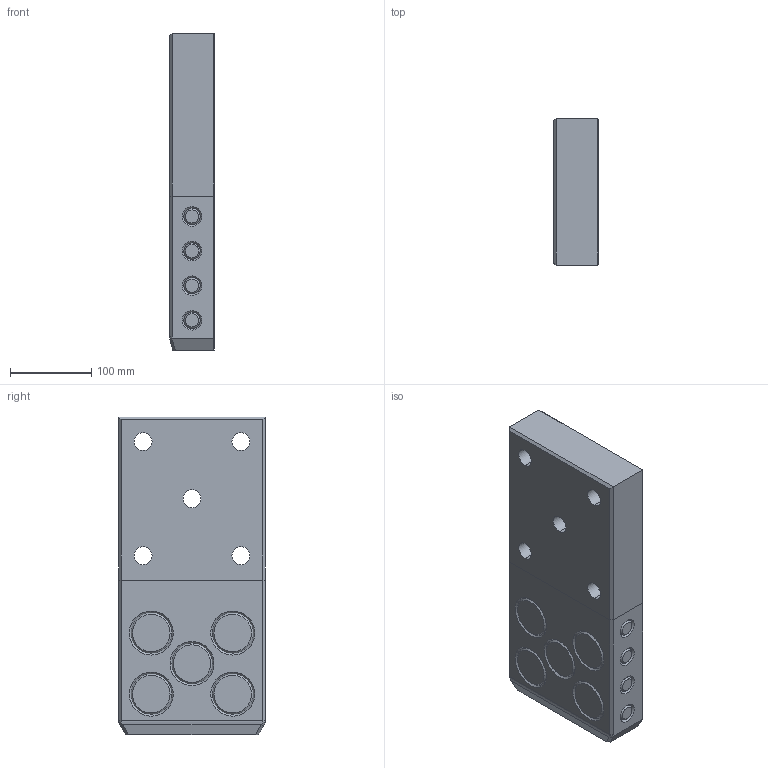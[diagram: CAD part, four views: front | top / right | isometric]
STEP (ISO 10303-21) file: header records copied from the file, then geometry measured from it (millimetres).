
FILE_DESCRIPTION((''),'2;1');
FILE_NAME('','2010-08-30T18:28:19+09:00',('misumi'),(''),'M/STEP i/f 1R2-14','CADmeister v5.1','');
FILE_SCHEMA(('AUTOMOTIVE_DESIGN'));
Length unit declared in the file: millimetre
Products named in the file (1): OG180-390
Bounding box: 55 x 180 x 390 mm (x, y, z)
Volume: 3730794.4 mm3; surface area: 217599 mm2
Topology: 1 solids, 1 shells, 108 faces, 234 edges, 142 vertices
Faces by surface type: cone 52, plane 39, cylinder 13, bspline 4
Entity records: 3998 total; most frequent: CARTESIAN_POINT 1541, DIRECTION 500, ORIENTED_EDGE 468, EDGE_CURVE 234, AXIS2_PLACEMENT_3D 191, VERTEX_POINT 142, EDGE_LOOP 132, LINE 118
